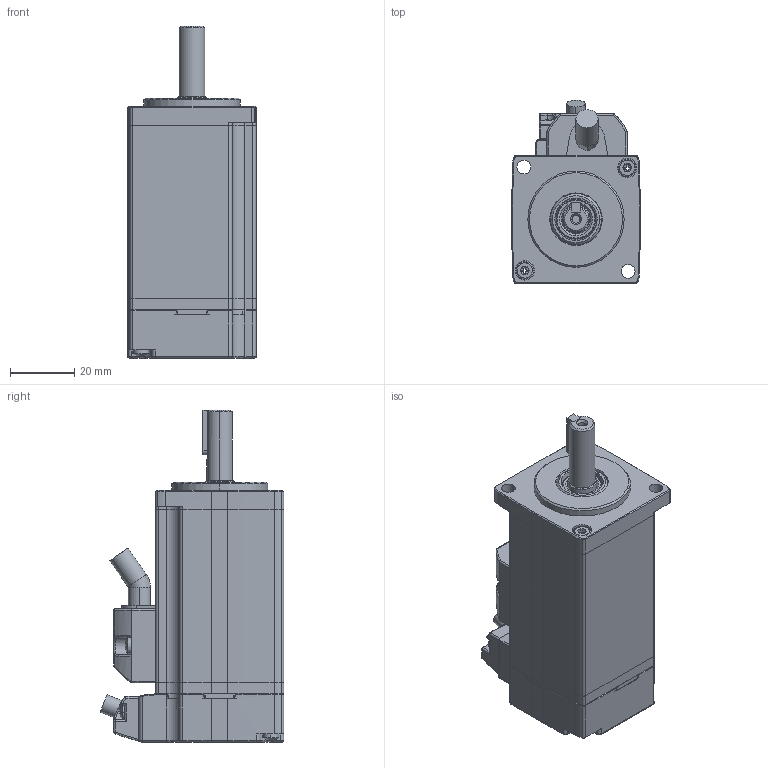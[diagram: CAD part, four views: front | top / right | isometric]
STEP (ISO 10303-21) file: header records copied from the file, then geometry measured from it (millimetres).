
FILE_DESCRIPTION (( 'STEP AP214' ), '1' );
FILE_NAME ('UMM-0001BA-B4.STEP', '2019-05-22T07:03:55', ( '' ), ( '' ), 'SwSTEP 2.0', 'SolidWorks 2017', '' );
FILE_SCHEMA (( 'AUTOMOTIVE_DESIGN' ));
Length unit declared in the file: millimetre
Products named in the file (1): UMM-0001BA-B4
Bounding box: 40 x 57.22 x 103.5 mm (x, y, z)
Surface area: 23410.3 mm2 (no closed solid volume)
Topology: 0 solids, 24 shells, 517 faces, 1489 edges, 978 vertices
Faces by surface type: cylinder 199, plane 187, bspline 87, cone 44
Entity records: 22826 total; most frequent: CARTESIAN_POINT 10078, ORIENTED_EDGE 2583, DIRECTION 2538, EDGE_CURVE 1475, VERTEX_POINT 978, AXIS2_PLACEMENT_3D 948, VECTOR 642, LINE 642
